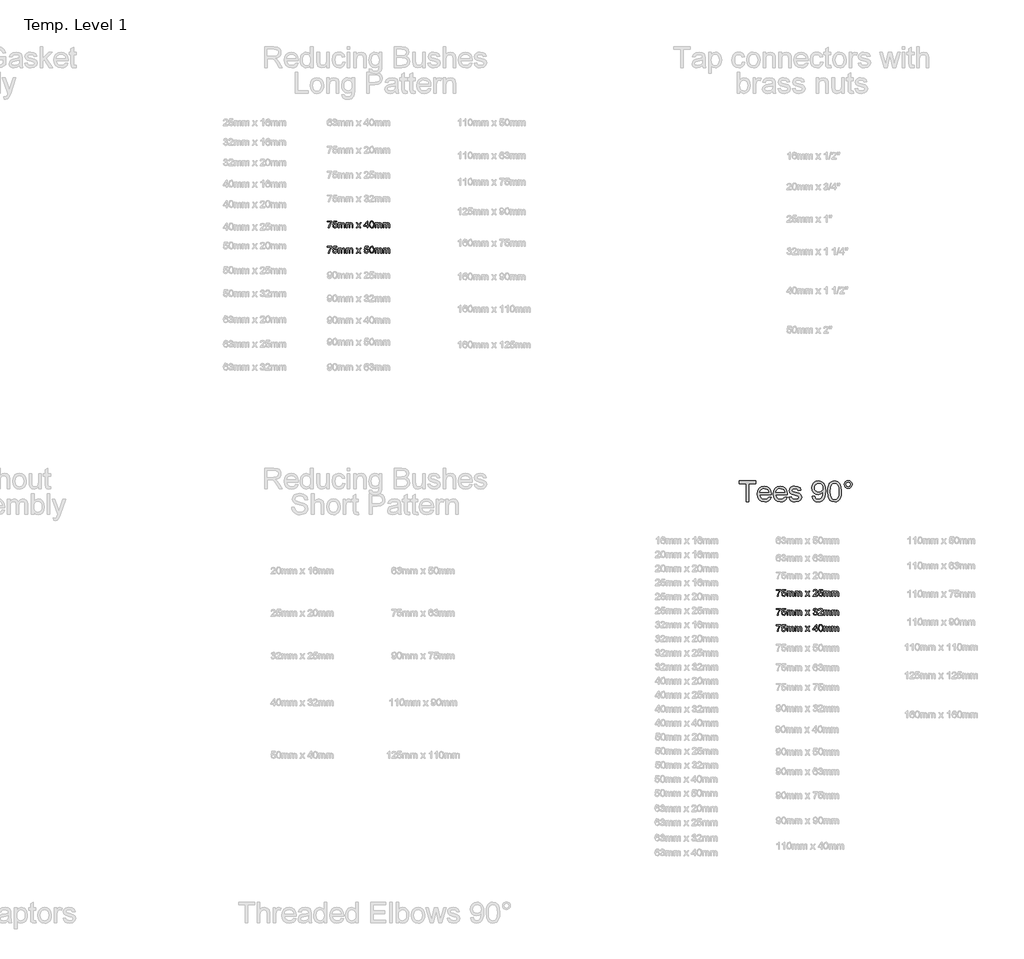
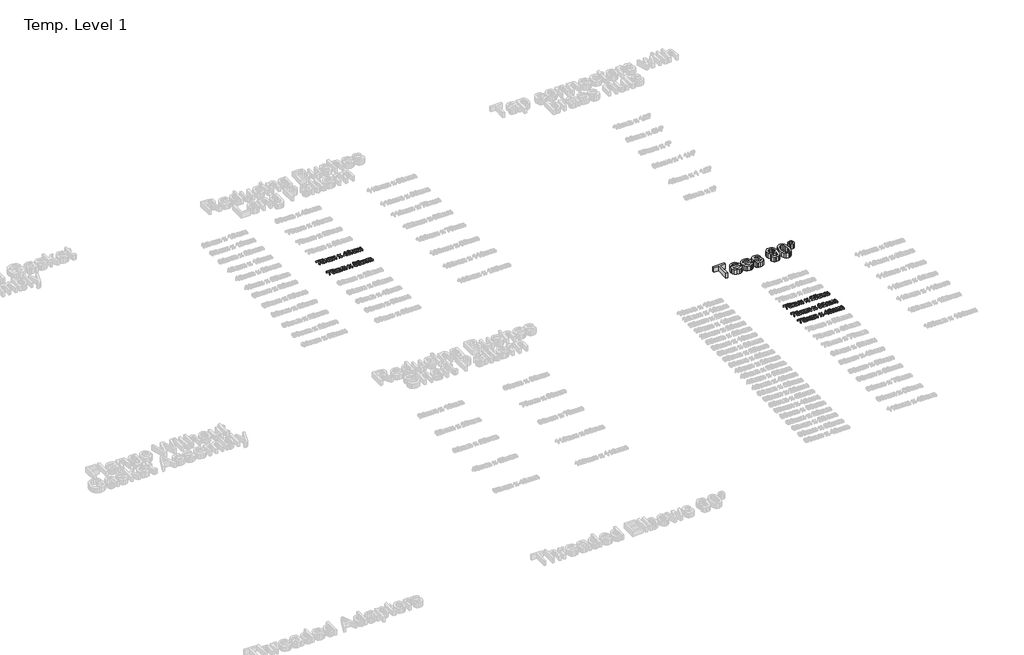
# One storey, part 44 of 62: 6 proxies.
"""IFC4 building model written with IfcOpenShell, lengths in millimetres."""

from ifc_helpers import new_model, si_unit, origin, origin_with_axes, place, context, project, spatial, polyline, outline, extrude, element, save

model = new_model("IFC4")

# Units and contexts
model_context = context("Model", 3, world=origin())
ifc_project = project(units=[si_unit("LENGTHUNIT", "METRE", prefix="MILLI")], contexts=[model_context])

# Site, building, storey
site = spatial("IfcSite", under=ifc_project)
building = spatial("IfcBuilding", under=site)
storey = spatial("IfcBuildingStorey", under=building, Name="Temp. Level 1", Elevation=0.0)

# Proxies
placement = place(None, origin())
element("IfcBuildingElementProxy", 1, Name="150mm Arial", ObjectType="150mm Arial", at=placement, inside=storey, context=model_context, shape_type="SweptSolid", body=[
    extrude(outline(polyline([(27061.5022519, -7070.198517), (27061.5022519, -6940.9677478), (27013.0407135, -6940.9677478), (27013.0407135, -6922.5062093), (27128.4253288, -6922.5062093), (27128.4253288, -6940.9677478), (27079.9637904, -6940.9677478), (27079.9637904, -7070.198517), (27061.5022519, -7070.198517)])), origin_with_axes(), (0.0, 0.0, 1.0), 50.0),
    extrude(outline(polyline([(27222.8243673, -7037.8908247), (27240.9253288, -7040.198517), (27234.4033938, -7053.8373391), (27223.9962423, -7064.0326516), (27209.9382495, -7070.3878199), (27192.4637904, -7072.5062093), (27170.8021317, -7068.8508608), (27154.1344635, -7057.8848151), (27143.5064587, -7040.3202117), (27139.9637904, -7016.8691901), (27143.5425163, -6992.6294064), (27154.2786942, -6974.5014016), (27170.7210019, -6963.1973151), (27191.4181173, -6959.4292862), (27211.4707014, -6963.1883007), (27227.4938385, -6974.4653439), (27238.0001486, -6992.5572911), (27241.5022519, -7016.761017), (27241.3940788, -7021.7369786), (27158.4253288, -7021.7369786), (27161.6209418, -7035.5560891), (27169.0443192, -7045.7153439), (27179.7579611, -7051.9623391), (27192.8243673, -7054.0446709), (27210.9253288, -7050.1864978), (27222.8243673, -7037.8908247)]), holes=[polyline([(27158.4253288, -7003.2754401), (27223.0407135, -7003.2754401), (27220.5437183, -6993.5218343), (27215.6488865, -6986.5446709), (27204.8856654, -6980.0542862), (27191.3460019, -6977.8908247), (27178.9015909, -6979.6170867), (27168.6116269, -6984.7958728), (27161.4586822, -6992.8682887), (27158.4253288, -7003.2754401)])]), origin_with_axes(), (0.0, 0.0, 1.0), 50.0),
    extrude(outline(polyline([(27335.9012904, -7037.8908247), (27354.0022519, -7040.198517), (27347.4803168, -7053.8373391), (27337.0731654, -7064.0326516), (27323.0151726, -7070.3878199), (27305.5407135, -7072.5062093), (27283.8790548, -7068.8508608), (27267.2113865, -7057.8848151), (27256.5833817, -7040.3202117), (27253.0407135, -7016.8691901), (27256.6194394, -6992.6294064), (27267.3556173, -6974.5014016), (27283.797925, -6963.1973151), (27304.4950404, -6959.4292862), (27324.5476245, -6963.1883007), (27340.5707615, -6974.4653439), (27351.0770716, -6992.5572911), (27354.579175, -7016.761017), (27354.4710019, -7021.7369786), (27271.5022519, -7021.7369786), (27274.6978649, -7035.5560891), (27282.1212423, -7045.7153439), (27292.8348841, -7051.9623391), (27305.9012904, -7054.0446709), (27324.0022519, -7050.1864978), (27335.9012904, -7037.8908247)]), holes=[polyline([(27271.5022519, -7003.2754401), (27336.1176365, -7003.2754401), (27333.6206413, -6993.5218343), (27328.7258096, -6986.5446709), (27317.9625885, -6980.0542862), (27304.422925, -6977.8908247), (27291.9785139, -6979.6170867), (27281.68855, -6984.7958728), (27274.5356053, -6992.8682887), (27271.5022519, -7003.2754401)])]), origin_with_axes(), (0.0, 0.0, 1.0), 50.0),
    extrude(outline(polyline([(27366.1176365, -7037.8908247), (27384.579175, -7035.5831324), (27387.4908337, -7043.479767), (27393.1248481, -7049.2850555), (27412.704175, -7054.0446709), (27431.5262904, -7049.6816901), (27437.6560981, -7039.4413055), (27431.4902327, -7031.1480362), (27412.4878288, -7025.8836132), (27384.6873481, -7016.8511612), (27372.5539346, -7006.3042862), (27368.4253288, -6991.4124593), (27371.7426365, -6977.6564497), (27380.7931173, -6967.1456324), (27392.5298962, -6961.682892), (27408.4133096, -6959.4292862), (27430.8772519, -6963.0530843), (27445.1560981, -6972.8607766), (27451.5022519, -6989.4292862), (27433.0407135, -6991.7369786), (27426.0996077, -6981.5506805), (27409.8556173, -6977.8908247), (27392.1873481, -6981.3884209), (27386.8868673, -6989.5374593), (27389.0863865, -6994.9100555), (27395.9734058, -6998.9845747), (27411.8748481, -7002.9148632), (27438.9722038, -7011.604767), (27451.5563385, -7021.448517), (27456.1176365, -7037.4941901), (27450.7630692, -7055.1624593), (27435.3123481, -7067.9809689), (27412.4517712, -7072.5062093), (27393.8369875, -7070.3247189), (27380.2522519, -7063.7802478), (27371.1837423, -7052.9449112), (27366.1176365, -7037.8908247)])), origin_with_axes(), (0.0, 0.0, 1.0), 50.0),
    extrude(outline(polyline([(27532.2714827, -7033.2754401), (27550.7330212, -7030.9677478), (27553.8880692, -7041.4470146), (27559.0262904, -7048.5819305), (27574.7474442, -7054.0446709), (27589.6933577, -7050.5290459), (27599.8255692, -7041.136017), (27605.8652327, -7025.0903439), (27608.5335019, -7003.6720747), (27608.4253288, -7000.0663055), (27593.6597038, -7014.0566901), (27573.4133096, -7019.4292862), (27556.5788745, -7016.1480362), (27542.5659538, -7006.3042862), (27533.1143313, -6991.0969545), (27529.9637904, -6971.7249593), (27533.2675764, -6951.7129401), (27543.1789346, -6936.0278439), (27558.0662543, -6925.886618), (27576.297925, -6922.5062093), (27590.0674563, -6924.4352959), (27602.6020115, -6930.2225555), (27613.0857856, -6939.5795266), (27620.7029731, -6952.2177478), (27625.3408938, -6969.6876997), (27626.8868673, -6993.5398632), (27625.345401, -7018.8298271), (27620.7210019, -7038.3776036), (27613.0542351, -7053.066606), (27602.3856654, -7063.7802478), (27589.1750284, -7070.3247189), (27573.8820596, -7072.5062093), (27558.0978048, -7069.9325915), (27545.5046558, -7062.2117382), (27536.6975644, -7049.8304281), (27532.2714827, -7033.2754401)]), holes=[polyline([(27608.4253288, -6971.292267), (27606.4331413, -6958.7802478), (27600.4565788, -6949.1528439), (27591.1807375, -6943.0140218), (27579.2907135, -6940.9677478), (27566.9589827, -6943.1717742), (27557.079175, -6949.7838536), (27550.5887904, -6959.9025435), (27548.4253288, -6972.6264016), (27550.4716029, -6984.034154), (27556.610425, -6993.089142), (27566.2468433, -6998.9980963), (27578.7859058, -7000.9677478), (27590.5812784, -6998.9980963), (27600.0779731, -6993.089142), (27606.3384899, -6983.7006204), (27608.4253288, -6971.292267)])]), origin_with_axes(), (0.0, 0.0, 1.0), 50.0),
    extrude(outline(polyline([(27643.0407135, -6997.542267), (27644.3973841, -6973.9019425), (27648.4673962, -6955.0482766), (27655.2101846, -6940.6928079), (27664.5851846, -6930.5470747), (27676.6600043, -6924.5164257), (27691.5022519, -6922.5062093), (27713.0647519, -6927.2658247), (27727.9565788, -6940.9857766), (27736.610425, -6962.8367382), (27739.9637904, -6997.542267), (27738.6206413, -7021.0473752), (27734.5911942, -7039.8559689), (27727.8889707, -7054.2249593), (27718.5274923, -7064.4112574), (27706.4256293, -7070.4824713), (27691.5022519, -7072.5062093), (27672.3195596, -7068.9905843), (27657.7522519, -7058.4437093), (27646.7185981, -7033.464743), (27643.0407135, -6997.542267)]), holes=[polyline([(27661.5022519, -6997.5062093), (27663.6657135, -7026.5461733), (27670.1560981, -7043.3535651), (27679.8195596, -7051.3718944), (27691.5022519, -7054.0446709), (27703.1849442, -7051.36288), (27712.8484058, -7043.3175074), (27719.3387904, -7026.5011012), (27721.5022519, -6997.5062093), (27719.4109058, -6969.1197911), (27713.1368673, -6952.1816901), (27703.4914346, -6943.7712334), (27691.2859058, -6940.9677478), (27679.7294154, -6943.4376997), (27670.4445596, -6950.8475555), (27663.7378288, -6968.8403439), (27661.5022519, -6997.5062093)])]), origin_with_axes(), (0.0, 0.0, 1.0), 50.0),
    extrude(outline(polyline([(27760.7330212, -6947.854767), (27762.7657736, -6937.2087334), (27768.8640308, -6928.2754401), (27777.8108457, -6922.2177478), (27788.3892712, -6920.198517), (27799.0893913, -6922.2177478), (27808.0407135, -6928.2754401), (27814.0984058, -6937.2087334), (27816.1176365, -6947.854767), (27814.0848841, -6958.487279), (27807.9866269, -6967.4521228), (27799.0217832, -6973.55038), (27788.3892712, -6975.5831324), (27777.8108457, -6973.5639016), (27768.8640308, -6967.5062093), (27762.7657736, -6958.5548872), (27760.7330212, -6947.854767)]), holes=[polyline([(27772.2714827, -6947.8908247), (27777.0130692, -6959.3211132), (27788.4613865, -6964.0446709), (27799.8375885, -6959.3211132), (27804.579175, -6947.8908247), (27799.8375885, -6936.4605362), (27788.4613865, -6931.7369786), (27777.0130692, -6936.4605362), (27772.2714827, -6947.8908247)])]), origin_with_axes(), (0.0, 0.0, 1.0), 50.0),
])
element("IfcBuildingElementProxy", 2, Name="50mm Arial", ObjectType="50mm Arial", at=placement, inside=storey, context=model_context, shape_type="SweptSolid", body=[
    extrude(outline(polyline([(24079.3793416, -5078.2165118), (24079.3793416, -5072.0626657), (24111.6870339, -5072.0626657), (24111.6870339, -5077.0386272), (24102.5223705, -5090.2778099), (24095.5091493, -5107.1468003), (24093.2254955, -5120.5242041), (24087.0716493, -5120.5242041), (24089.5175628, -5106.6419926), (24096.2303032, -5090.9508868), (24105.5331878, -5078.2165118), (24079.3793416, -5078.2165118)])), origin_with_axes(), (0.0, 0.0, 1.0), 15.0),
    extrude(outline(polyline([(24117.0716493, -5107.447281), (24123.2254955, -5106.6780503), (24126.326457, -5113.0181945), (24132.7567455, -5115.1395887), (24140.4730916, -5112.1888676), (24143.2254955, -5104.3583387), (24140.6473705, -5097.0506464), (24132.8528993, -5094.370358), (24127.4502551, -5095.4400695), (24123.9947262, -5098.2165118), (24117.8408801, -5097.447281), (24123.2254955, -5072.0626657), (24147.0716493, -5072.0626657), (24147.0716493, -5078.2165118), (24128.201457, -5078.2165118), (24125.5692455, -5091.7742041), (24134.5716493, -5088.2165118), (24145.0944859, -5092.6275695), (24149.3793416, -5103.9737233), (24145.5211685, -5115.3919926), (24139.9803032, -5119.8180743), (24132.732707, -5121.2934349), (24121.873332, -5117.5013676), (24117.0716493, -5107.447281)])), origin_with_axes(), (0.0, 0.0, 1.0), 15.0),
    extrude(outline(polyline([(24156.3024185, -5120.5242041), (24156.3024185, -5084.370358), (24162.4562647, -5084.370358), (24162.4562647, -5090.3198772), (24166.6870339, -5085.4460791), (24172.7086685, -5083.6011272), (24178.8745339, -5085.4821368), (24182.263957, -5090.7525695), (24187.0656397, -5085.3889878), (24193.1293416, -5083.6011272), (24201.1762166, -5086.5758868), (24203.9947262, -5095.7405503), (24203.9947262, -5120.5242041), (24197.8408801, -5120.5242041), (24197.8408801, -5098.384781), (24197.2699666, -5093.2465599), (24195.2026589, -5090.7165118), (24191.6870339, -5089.7549733), (24185.6353512, -5092.2189157), (24183.2254955, -5100.1155503), (24183.2254955, -5120.5242041), (24177.0716493, -5120.5242041), (24177.0716493, -5097.6996849), (24175.6473705, -5091.7381464), (24170.9778993, -5089.7549733), (24166.4226109, -5091.0770887), (24163.3937647, -5094.947281), (24162.4562647, -5102.291031), (24162.4562647, -5120.5242041), (24156.3024185, -5120.5242041)])), origin_with_axes(), (0.0, 0.0, 1.0), 15.0),
    extrude(outline(polyline([(24213.2254955, -5120.5242041), (24213.2254955, -5084.370358), (24219.3793416, -5084.370358), (24219.3793416, -5090.3198772), (24223.6101109, -5085.4460791), (24229.6317455, -5083.6011272), (24235.7976109, -5085.4821368), (24239.1870339, -5090.7525695), (24243.9887166, -5085.3889878), (24250.0524185, -5083.6011272), (24258.0992935, -5086.5758868), (24260.9178032, -5095.7405503), (24260.9178032, -5120.5242041), (24254.763957, -5120.5242041), (24254.763957, -5098.384781), (24254.1930435, -5093.2465599), (24252.1257359, -5090.7165118), (24248.6101109, -5089.7549733), (24242.5584282, -5092.2189157), (24240.1485724, -5100.1155503), (24240.1485724, -5120.5242041), (24233.9947262, -5120.5242041), (24233.9947262, -5097.6996849), (24232.5704474, -5091.7381464), (24227.9009762, -5089.7549733), (24223.3456878, -5091.0770887), (24220.3168416, -5094.947281), (24219.3793416, -5102.291031), (24219.3793416, -5120.5242041), (24213.2254955, -5120.5242041)])), origin_with_axes(), (0.0, 0.0, 1.0), 15.0),
    extrude(outline(polyline([(24285.5331878, -5120.5242041), (24298.6822262, -5102.3511272), (24286.3024185, -5084.370358), (24293.7062647, -5084.370358), (24299.6798224, -5093.0242041), (24302.4682839, -5097.1107426), (24304.8841493, -5093.7693964), (24311.6870339, -5084.370358), (24319.0908801, -5084.370358), (24306.0860724, -5102.3511272), (24318.6101109, -5120.5242041), (24311.2062647, -5120.5242041), (24303.670207, -5109.5987233), (24302.2879955, -5107.603531), (24292.9370339, -5120.5242041), (24285.5331878, -5120.5242041)])), origin_with_axes(), (0.0, 0.0, 1.0), 15.0),
    extrude(outline(polyline([(24361.6870339, -5120.5242041), (24361.6870339, -5108.9857426), (24339.3793416, -5108.9857426), (24339.3793416, -5102.8318964), (24363.2254955, -5072.0626657), (24367.8408801, -5072.0626657), (24367.8408801, -5102.8318964), (24373.9947262, -5102.8318964), (24373.9947262, -5108.9857426), (24367.8408801, -5108.9857426), (24367.8408801, -5120.5242041), (24361.6870339, -5120.5242041)]), holes=[polyline([(24361.6870339, -5102.8318964), (24361.6870339, -5083.8174733), (24346.951457, -5102.8318964), (24361.6870339, -5102.8318964)])]), origin_with_axes(), (0.0, 0.0, 1.0), 15.0),
    extrude(outline(polyline([(24379.3793416, -5096.3054541), (24381.1882359, -5082.1407907), (24386.560832, -5073.9737233), (24395.5331878, -5071.2934349), (24402.7206878, -5072.8799733), (24407.6846301, -5077.4532907), (24410.5692455, -5084.7369445), (24411.6870339, -5096.3054541), (24409.8961685, -5110.4100214), (24404.5416012, -5118.5951176), (24395.5331878, -5121.2934349), (24384.2831878, -5116.6059349), (24380.6053032, -5108.2796128), (24379.3793416, -5096.3054541)]), holes=[polyline([(24385.5331878, -5096.2934349), (24388.4178032, -5111.5758868), (24395.5331878, -5115.1395887), (24402.6485724, -5111.5638676), (24405.5331878, -5096.2934349), (24402.7447262, -5081.1852618), (24395.4610724, -5077.447281), (24388.513957, -5080.7405503), (24385.5331878, -5096.2934349)])]), origin_with_axes(), (0.0, 0.0, 1.0), 15.0),
    extrude(outline(polyline([(24418.6101109, -5120.5242041), (24418.6101109, -5084.370358), (24424.763957, -5084.370358), (24424.763957, -5090.3198772), (24428.9947262, -5085.4460791), (24435.0163609, -5083.6011272), (24441.1822262, -5085.4821368), (24444.5716493, -5090.7525695), (24449.373332, -5085.3889878), (24455.4370339, -5083.6011272), (24463.4839089, -5086.5758868), (24466.3024185, -5095.7405503), (24466.3024185, -5120.5242041), (24460.1485724, -5120.5242041), (24460.1485724, -5098.384781), (24459.5776589, -5093.2465599), (24457.5103512, -5090.7165118), (24453.9947262, -5089.7549733), (24447.9430435, -5092.2189157), (24445.5331878, -5100.1155503), (24445.5331878, -5120.5242041), (24439.3793416, -5120.5242041), (24439.3793416, -5097.6996849), (24437.9550628, -5091.7381464), (24433.2855916, -5089.7549733), (24428.7303032, -5091.0770887), (24425.701457, -5094.947281), (24424.763957, -5102.291031), (24424.763957, -5120.5242041), (24418.6101109, -5120.5242041)])), origin_with_axes(), (0.0, 0.0, 1.0), 15.0),
    extrude(outline(polyline([(24475.5331878, -5120.5242041), (24475.5331878, -5084.370358), (24481.6870339, -5084.370358), (24481.6870339, -5090.3198772), (24485.9178032, -5085.4460791), (24491.9394378, -5083.6011272), (24498.1053032, -5085.4821368), (24501.4947262, -5090.7525695), (24506.2964089, -5085.3889878), (24512.3601109, -5083.6011272), (24520.4069859, -5086.5758868), (24523.2254955, -5095.7405503), (24523.2254955, -5120.5242041), (24517.0716493, -5120.5242041), (24517.0716493, -5098.384781), (24516.5007359, -5093.2465599), (24514.4334282, -5090.7165118), (24510.9178032, -5089.7549733), (24504.8661205, -5092.2189157), (24502.4562647, -5100.1155503), (24502.4562647, -5120.5242041), (24496.3024185, -5120.5242041), (24496.3024185, -5097.6996849), (24494.8781397, -5091.7381464), (24490.2086685, -5089.7549733), (24485.6533801, -5091.0770887), (24482.6245339, -5094.947281), (24481.6870339, -5102.291031), (24481.6870339, -5120.5242041), (24475.5331878, -5120.5242041)])), origin_with_axes(), (0.0, 0.0, 1.0), 15.0),
])
element("IfcBuildingElementProxy", 3, Name="50mm Arial", ObjectType="50mm Arial", at=placement, inside=storey, context=model_context, shape_type="SweptSolid", body=[
    extrude(outline(polyline([(24079.3793416, -5258.2165118), (24079.3793416, -5252.0626657), (24111.6870339, -5252.0626657), (24111.6870339, -5257.0386272), (24102.5223705, -5270.2778099), (24095.5091493, -5287.1468003), (24093.2254955, -5300.5242041), (24087.0716493, -5300.5242041), (24089.5175628, -5286.6419926), (24096.2303032, -5270.9508868), (24105.5331878, -5258.2165118), (24079.3793416, -5258.2165118)])), origin_with_axes(), (0.0, 0.0, 1.0), 15.0),
    extrude(outline(polyline([(24117.0716493, -5287.447281), (24123.2254955, -5286.6780503), (24126.326457, -5293.0181945), (24132.7567455, -5295.1395887), (24140.4730916, -5292.1888676), (24143.2254955, -5284.3583387), (24140.6473705, -5277.0506464), (24132.8528993, -5274.370358), (24127.4502551, -5275.4400695), (24123.9947262, -5278.2165118), (24117.8408801, -5277.447281), (24123.2254955, -5252.0626657), (24147.0716493, -5252.0626657), (24147.0716493, -5258.2165118), (24128.201457, -5258.2165118), (24125.5692455, -5271.7742041), (24134.5716493, -5268.2165118), (24145.0944859, -5272.6275695), (24149.3793416, -5283.9737233), (24145.5211685, -5295.3919926), (24139.9803032, -5299.8180743), (24132.732707, -5301.2934349), (24121.873332, -5297.5013676), (24117.0716493, -5287.447281)])), origin_with_axes(), (0.0, 0.0, 1.0), 15.0),
    extrude(outline(polyline([(24156.3024185, -5300.5242041), (24156.3024185, -5264.370358), (24162.4562647, -5264.370358), (24162.4562647, -5270.3198772), (24166.6870339, -5265.4460791), (24172.7086685, -5263.6011272), (24178.8745339, -5265.4821368), (24182.263957, -5270.7525695), (24187.0656397, -5265.3889878), (24193.1293416, -5263.6011272), (24201.1762166, -5266.5758868), (24203.9947262, -5275.7405503), (24203.9947262, -5300.5242041), (24197.8408801, -5300.5242041), (24197.8408801, -5278.384781), (24197.2699666, -5273.2465599), (24195.2026589, -5270.7165118), (24191.6870339, -5269.7549733), (24185.6353512, -5272.2189157), (24183.2254955, -5280.1155503), (24183.2254955, -5300.5242041), (24177.0716493, -5300.5242041), (24177.0716493, -5277.6996849), (24175.6473705, -5271.7381464), (24170.9778993, -5269.7549733), (24166.4226109, -5271.0770887), (24163.3937647, -5274.947281), (24162.4562647, -5282.291031), (24162.4562647, -5300.5242041), (24156.3024185, -5300.5242041)])), origin_with_axes(), (0.0, 0.0, 1.0), 15.0),
    extrude(outline(polyline([(24213.2254955, -5300.5242041), (24213.2254955, -5264.370358), (24219.3793416, -5264.370358), (24219.3793416, -5270.3198772), (24223.6101109, -5265.4460791), (24229.6317455, -5263.6011272), (24235.7976109, -5265.4821368), (24239.1870339, -5270.7525695), (24243.9887166, -5265.3889878), (24250.0524185, -5263.6011272), (24258.0992935, -5266.5758868), (24260.9178032, -5275.7405503), (24260.9178032, -5300.5242041), (24254.763957, -5300.5242041), (24254.763957, -5278.384781), (24254.1930435, -5273.2465599), (24252.1257359, -5270.7165118), (24248.6101109, -5269.7549733), (24242.5584282, -5272.2189157), (24240.1485724, -5280.1155503), (24240.1485724, -5300.5242041), (24233.9947262, -5300.5242041), (24233.9947262, -5277.6996849), (24232.5704474, -5271.7381464), (24227.9009762, -5269.7549733), (24223.3456878, -5271.0770887), (24220.3168416, -5274.947281), (24219.3793416, -5282.291031), (24219.3793416, -5300.5242041), (24213.2254955, -5300.5242041)])), origin_with_axes(), (0.0, 0.0, 1.0), 15.0),
    extrude(outline(polyline([(24285.5331878, -5300.5242041), (24298.6822262, -5282.3511272), (24286.3024185, -5264.370358), (24293.7062647, -5264.370358), (24299.6798224, -5273.0242041), (24302.4682839, -5277.1107426), (24304.8841493, -5273.7693964), (24311.6870339, -5264.370358), (24319.0908801, -5264.370358), (24306.0860724, -5282.3511272), (24318.6101109, -5300.5242041), (24311.2062647, -5300.5242041), (24303.670207, -5289.5987233), (24302.2879955, -5287.603531), (24292.9370339, -5300.5242041), (24285.5331878, -5300.5242041)])), origin_with_axes(), (0.0, 0.0, 1.0), 15.0),
    extrude(outline(polyline([(24341.6870339, -5287.447281), (24347.8408801, -5286.6780503), (24350.9418416, -5293.0181945), (24357.3721301, -5295.1395887), (24365.0884762, -5292.1888676), (24367.8408801, -5284.3583387), (24365.2627551, -5277.0506464), (24357.4682839, -5274.370358), (24352.0656397, -5275.4400695), (24348.6101109, -5278.2165118), (24342.4562647, -5277.447281), (24347.8408801, -5252.0626657), (24371.6870339, -5252.0626657), (24371.6870339, -5258.2165118), (24352.8168416, -5258.2165118), (24350.1846301, -5271.7742041), (24359.1870339, -5268.2165118), (24369.7098705, -5272.6275695), (24373.9947262, -5283.9737233), (24370.1365532, -5295.3919926), (24364.5956878, -5299.8180743), (24357.3480916, -5301.2934349), (24346.4887166, -5297.5013676), (24341.6870339, -5287.447281)])), origin_with_axes(), (0.0, 0.0, 1.0), 15.0),
    extrude(outline(polyline([(24379.3793416, -5276.3054541), (24381.1882359, -5262.1407907), (24386.560832, -5253.9737233), (24395.5331878, -5251.2934349), (24402.7206878, -5252.8799733), (24407.6846301, -5257.4532907), (24410.5692455, -5264.7369445), (24411.6870339, -5276.3054541), (24409.8961685, -5290.4100214), (24404.5416012, -5298.5951176), (24395.5331878, -5301.2934349), (24384.2831878, -5296.6059349), (24380.6053032, -5288.2796128), (24379.3793416, -5276.3054541)]), holes=[polyline([(24385.5331878, -5276.2934349), (24388.4178032, -5291.5758868), (24395.5331878, -5295.1395887), (24402.6485724, -5291.5638676), (24405.5331878, -5276.2934349), (24402.7447262, -5261.1852618), (24395.4610724, -5257.447281), (24388.513957, -5260.7405503), (24385.5331878, -5276.2934349)])]), origin_with_axes(), (0.0, 0.0, 1.0), 15.0),
    extrude(outline(polyline([(24418.6101109, -5300.5242041), (24418.6101109, -5264.370358), (24424.763957, -5264.370358), (24424.763957, -5270.3198772), (24428.9947262, -5265.4460791), (24435.0163609, -5263.6011272), (24441.1822262, -5265.4821368), (24444.5716493, -5270.7525695), (24449.373332, -5265.3889878), (24455.4370339, -5263.6011272), (24463.4839089, -5266.5758868), (24466.3024185, -5275.7405503), (24466.3024185, -5300.5242041), (24460.1485724, -5300.5242041), (24460.1485724, -5278.384781), (24459.5776589, -5273.2465599), (24457.5103512, -5270.7165118), (24453.9947262, -5269.7549733), (24447.9430435, -5272.2189157), (24445.5331878, -5280.1155503), (24445.5331878, -5300.5242041), (24439.3793416, -5300.5242041), (24439.3793416, -5277.6996849), (24437.9550628, -5271.7381464), (24433.2855916, -5269.7549733), (24428.7303032, -5271.0770887), (24425.701457, -5274.947281), (24424.763957, -5282.291031), (24424.763957, -5300.5242041), (24418.6101109, -5300.5242041)])), origin_with_axes(), (0.0, 0.0, 1.0), 15.0),
    extrude(outline(polyline([(24475.5331878, -5300.5242041), (24475.5331878, -5264.370358), (24481.6870339, -5264.370358), (24481.6870339, -5270.3198772), (24485.9178032, -5265.4460791), (24491.9394378, -5263.6011272), (24498.1053032, -5265.4821368), (24501.4947262, -5270.7525695), (24506.2964089, -5265.3889878), (24512.3601109, -5263.6011272), (24520.4069859, -5266.5758868), (24523.2254955, -5275.7405503), (24523.2254955, -5300.5242041), (24517.0716493, -5300.5242041), (24517.0716493, -5278.384781), (24516.5007359, -5273.2465599), (24514.4334282, -5270.7165118), (24510.9178032, -5269.7549733), (24504.8661205, -5272.2189157), (24502.4562647, -5280.1155503), (24502.4562647, -5300.5242041), (24496.3024185, -5300.5242041), (24496.3024185, -5277.6996849), (24494.8781397, -5271.7381464), (24490.2086685, -5269.7549733), (24485.6533801, -5271.0770887), (24482.6245339, -5274.947281), (24481.6870339, -5282.291031), (24481.6870339, -5300.5242041), (24475.5331878, -5300.5242041)])), origin_with_axes(), (0.0, 0.0, 1.0), 15.0),
])
element("IfcBuildingElementProxy", 4, Name="50mm Arial", ObjectType="50mm Arial", at=placement, inside=storey, context=model_context, shape_type="SweptSolid", body=[
    extrude(outline(polyline([(27275.7186344, -7702.2488061), (27275.7186344, -7696.09496), (27308.0263267, -7696.09496), (27308.0263267, -7701.0709215), (27298.8616633, -7714.3101042), (27291.8484421, -7731.1790946), (27289.5647883, -7744.5564984), (27283.4109421, -7744.5564984), (27285.8568556, -7730.6742869), (27292.569596, -7714.9831811), (27301.8724806, -7702.2488061), (27275.7186344, -7702.2488061)])), origin_with_axes(), (0.0, 0.0, 1.0), 15.0),
    extrude(outline(polyline([(27313.4109421, -7731.4795754), (27319.5647883, -7730.7103446), (27322.6657498, -7737.0504888), (27329.0960383, -7739.1718831), (27336.8123844, -7736.2211619), (27339.5647883, -7728.3906331), (27336.9866633, -7721.0829408), (27329.1921921, -7718.4026523), (27323.7895479, -7719.4723638), (27320.334019, -7722.2488061), (27314.1801729, -7721.4795754), (27319.5647883, -7696.09496), (27343.4109421, -7696.09496), (27343.4109421, -7702.2488061), (27324.5407498, -7702.2488061), (27321.9085383, -7715.8064984), (27330.9109421, -7712.2488061), (27341.4337786, -7716.6598638), (27345.7186344, -7728.0060177), (27341.8604613, -7739.4242869), (27336.319596, -7743.8503686), (27329.0719998, -7745.3257292), (27318.2126248, -7741.5336619), (27313.4109421, -7731.4795754)])), origin_with_axes(), (0.0, 0.0, 1.0), 15.0),
    extrude(outline(polyline([(27352.6417113, -7744.5564984), (27352.6417113, -7708.4026523), (27358.7955575, -7708.4026523), (27358.7955575, -7714.3521715), (27363.0263267, -7709.4783734), (27369.0479613, -7707.6334215), (27375.2138267, -7709.5144311), (27378.6032498, -7714.7848638), (27383.4049325, -7709.4212821), (27389.4686344, -7707.6334215), (27397.5155094, -7710.6081811), (27400.334019, -7719.7728446), (27400.334019, -7744.5564984), (27394.1801729, -7744.5564984), (27394.1801729, -7722.4170754), (27393.6092594, -7717.2788542), (27391.5419517, -7714.7488061), (27388.0263267, -7713.7872677), (27381.974644, -7716.25121), (27379.5647883, -7724.1478446), (27379.5647883, -7744.5564984), (27373.4109421, -7744.5564984), (27373.4109421, -7721.7319792), (27371.9866633, -7715.7704408), (27367.3171921, -7713.7872677), (27362.7619036, -7715.1093831), (27359.7330575, -7718.9795754), (27358.7955575, -7726.3233254), (27358.7955575, -7744.5564984), (27352.6417113, -7744.5564984)])), origin_with_axes(), (0.0, 0.0, 1.0), 15.0),
    extrude(outline(polyline([(27409.5647883, -7744.5564984), (27409.5647883, -7708.4026523), (27415.7186344, -7708.4026523), (27415.7186344, -7714.3521715), (27419.9494036, -7709.4783734), (27425.9710383, -7707.6334215), (27432.1369036, -7709.5144311), (27435.5263267, -7714.7848638), (27440.3280094, -7709.4212821), (27446.3917113, -7707.6334215), (27454.4385863, -7710.6081811), (27457.257096, -7719.7728446), (27457.257096, -7744.5564984), (27451.1032498, -7744.5564984), (27451.1032498, -7722.4170754), (27450.5323363, -7717.2788542), (27448.4650286, -7714.7488061), (27444.9494036, -7713.7872677), (27438.897721, -7716.25121), (27436.4878652, -7724.1478446), (27436.4878652, -7744.5564984), (27430.334019, -7744.5564984), (27430.334019, -7721.7319792), (27428.9097402, -7715.7704408), (27424.240269, -7713.7872677), (27419.6849806, -7715.1093831), (27416.6561344, -7718.9795754), (27415.7186344, -7726.3233254), (27415.7186344, -7744.5564984), (27409.5647883, -7744.5564984)])), origin_with_axes(), (0.0, 0.0, 1.0), 15.0),
    extrude(outline(polyline([(27481.8724806, -7744.5564984), (27495.021519, -7726.3834215), (27482.6417113, -7708.4026523), (27490.0455575, -7708.4026523), (27496.0191152, -7717.0564984), (27498.8075767, -7721.1430369), (27501.2234421, -7717.8016908), (27508.0263267, -7708.4026523), (27515.4301729, -7708.4026523), (27502.4253652, -7726.3834215), (27514.9494036, -7744.5564984), (27507.5455575, -7744.5564984), (27500.0094998, -7733.6310177), (27498.6272883, -7731.6358254), (27489.2763267, -7744.5564984), (27481.8724806, -7744.5564984)])), origin_with_axes(), (0.0, 0.0, 1.0), 15.0),
    extrude(outline(polyline([(27569.5647883, -7738.4026523), (27569.5647883, -7744.5564984), (27537.257096, -7744.5564984), (27537.9181536, -7740.31371), (27541.6561344, -7733.7812581), (27549.3604613, -7726.6478446), (27559.9854613, -7716.3954408), (27562.6417113, -7709.4242869), (27560.1357017, -7703.7812581), (27553.5912306, -7701.4795754), (27546.7703171, -7703.7271715), (27544.1801729, -7709.9411138), (27538.0263267, -7709.1718831), (27542.7438748, -7698.8714023), (27553.7234421, -7695.3257292), (27564.7390671, -7699.2680369), (27568.7955575, -7709.0516908), (27567.7018075, -7714.8870273), (27564.0659902, -7720.9206811), (27555.2498844, -7729.3521715), (27548.1705575, -7735.2716427), (27545.3941152, -7738.4026523), (27569.5647883, -7738.4026523)])), origin_with_axes(), (0.0, 0.0, 1.0), 15.0),
    extrude(outline(polyline([(27575.7186344, -7731.4795754), (27581.8724806, -7730.7103446), (27584.9734421, -7737.0504888), (27591.4037306, -7739.1718831), (27599.1200767, -7736.2211619), (27601.8724806, -7728.3906331), (27599.2943556, -7721.0829408), (27591.4998844, -7718.4026523), (27586.0972402, -7719.4723638), (27582.6417113, -7722.2488061), (27576.4878652, -7721.4795754), (27581.8724806, -7696.09496), (27605.7186344, -7696.09496), (27605.7186344, -7702.2488061), (27586.8484421, -7702.2488061), (27584.2162306, -7715.8064984), (27593.2186344, -7712.2488061), (27603.741471, -7716.6598638), (27608.0263267, -7728.0060177), (27604.1681536, -7739.4242869), (27598.6272883, -7743.8503686), (27591.3796921, -7745.3257292), (27580.5203171, -7741.5336619), (27575.7186344, -7731.4795754)])), origin_with_axes(), (0.0, 0.0, 1.0), 15.0),
    extrude(outline(polyline([(27614.9494036, -7744.5564984), (27614.9494036, -7708.4026523), (27621.1032498, -7708.4026523), (27621.1032498, -7714.3521715), (27625.334019, -7709.4783734), (27631.3556536, -7707.6334215), (27637.521519, -7709.5144311), (27640.9109421, -7714.7848638), (27645.7126248, -7709.4212821), (27651.7763267, -7707.6334215), (27659.8232017, -7710.6081811), (27662.6417113, -7719.7728446), (27662.6417113, -7744.5564984), (27656.4878652, -7744.5564984), (27656.4878652, -7722.4170754), (27655.9169517, -7717.2788542), (27653.849644, -7714.7488061), (27650.334019, -7713.7872677), (27644.2823363, -7716.25121), (27641.8724806, -7724.1478446), (27641.8724806, -7744.5564984), (27635.7186344, -7744.5564984), (27635.7186344, -7721.7319792), (27634.2943556, -7715.7704408), (27629.6248844, -7713.7872677), (27625.069596, -7715.1093831), (27622.0407498, -7718.9795754), (27621.1032498, -7726.3233254), (27621.1032498, -7744.5564984), (27614.9494036, -7744.5564984)])), origin_with_axes(), (0.0, 0.0, 1.0), 15.0),
    extrude(outline(polyline([(27671.8724806, -7744.5564984), (27671.8724806, -7708.4026523), (27678.0263267, -7708.4026523), (27678.0263267, -7714.3521715), (27682.257096, -7709.4783734), (27688.2787306, -7707.6334215), (27694.444596, -7709.5144311), (27697.834019, -7714.7848638), (27702.6357017, -7709.4212821), (27708.6994036, -7707.6334215), (27716.7462786, -7710.6081811), (27719.5647883, -7719.7728446), (27719.5647883, -7744.5564984), (27713.4109421, -7744.5564984), (27713.4109421, -7722.4170754), (27712.8400286, -7717.2788542), (27710.772721, -7714.7488061), (27707.257096, -7713.7872677), (27701.2054133, -7716.25121), (27698.7955575, -7724.1478446), (27698.7955575, -7744.5564984), (27692.6417113, -7744.5564984), (27692.6417113, -7721.7319792), (27691.2174325, -7715.7704408), (27686.5479613, -7713.7872677), (27681.9926729, -7715.1093831), (27678.9638267, -7718.9795754), (27678.0263267, -7726.3233254), (27678.0263267, -7744.5564984), (27671.8724806, -7744.5564984)])), origin_with_axes(), (0.0, 0.0, 1.0), 15.0),
])
element("IfcBuildingElementProxy", 5, Name="50mm Arial", ObjectType="50mm Arial", at=placement, inside=storey, context=model_context, shape_type="SweptSolid", body=[
    extrude(outline(polyline([(27275.7186344, -7837.2488061), (27275.7186344, -7831.09496), (27308.0263267, -7831.09496), (27308.0263267, -7836.0709215), (27298.8616633, -7849.3101042), (27291.8484421, -7866.1790946), (27289.5647883, -7879.5564984), (27283.4109421, -7879.5564984), (27285.8568556, -7865.6742869), (27292.569596, -7849.9831811), (27301.8724806, -7837.2488061), (27275.7186344, -7837.2488061)])), origin_with_axes(), (0.0, 0.0, 1.0), 15.0),
    extrude(outline(polyline([(27313.4109421, -7866.4795754), (27319.5647883, -7865.7103446), (27322.6657498, -7872.0504888), (27329.0960383, -7874.1718831), (27336.8123844, -7871.2211619), (27339.5647883, -7863.3906331), (27336.9866633, -7856.0829408), (27329.1921921, -7853.4026523), (27323.7895479, -7854.4723638), (27320.334019, -7857.2488061), (27314.1801729, -7856.4795754), (27319.5647883, -7831.09496), (27343.4109421, -7831.09496), (27343.4109421, -7837.2488061), (27324.5407498, -7837.2488061), (27321.9085383, -7850.8064984), (27330.9109421, -7847.2488061), (27341.4337786, -7851.6598638), (27345.7186344, -7863.0060177), (27341.8604613, -7874.4242869), (27336.319596, -7878.8503686), (27329.0719998, -7880.3257292), (27318.2126248, -7876.5336619), (27313.4109421, -7866.4795754)])), origin_with_axes(), (0.0, 0.0, 1.0), 15.0),
    extrude(outline(polyline([(27352.6417113, -7879.5564984), (27352.6417113, -7843.4026523), (27358.7955575, -7843.4026523), (27358.7955575, -7849.3521715), (27363.0263267, -7844.4783734), (27369.0479613, -7842.6334215), (27375.2138267, -7844.5144311), (27378.6032498, -7849.7848638), (27383.4049325, -7844.4212821), (27389.4686344, -7842.6334215), (27397.5155094, -7845.6081811), (27400.334019, -7854.7728446), (27400.334019, -7879.5564984), (27394.1801729, -7879.5564984), (27394.1801729, -7857.4170754), (27393.6092594, -7852.2788542), (27391.5419517, -7849.7488061), (27388.0263267, -7848.7872677), (27381.974644, -7851.25121), (27379.5647883, -7859.1478446), (27379.5647883, -7879.5564984), (27373.4109421, -7879.5564984), (27373.4109421, -7856.7319792), (27371.9866633, -7850.7704408), (27367.3171921, -7848.7872677), (27362.7619036, -7850.1093831), (27359.7330575, -7853.9795754), (27358.7955575, -7861.3233254), (27358.7955575, -7879.5564984), (27352.6417113, -7879.5564984)])), origin_with_axes(), (0.0, 0.0, 1.0), 15.0),
    extrude(outline(polyline([(27409.5647883, -7879.5564984), (27409.5647883, -7843.4026523), (27415.7186344, -7843.4026523), (27415.7186344, -7849.3521715), (27419.9494036, -7844.4783734), (27425.9710383, -7842.6334215), (27432.1369036, -7844.5144311), (27435.5263267, -7849.7848638), (27440.3280094, -7844.4212821), (27446.3917113, -7842.6334215), (27454.4385863, -7845.6081811), (27457.257096, -7854.7728446), (27457.257096, -7879.5564984), (27451.1032498, -7879.5564984), (27451.1032498, -7857.4170754), (27450.5323363, -7852.2788542), (27448.4650286, -7849.7488061), (27444.9494036, -7848.7872677), (27438.897721, -7851.25121), (27436.4878652, -7859.1478446), (27436.4878652, -7879.5564984), (27430.334019, -7879.5564984), (27430.334019, -7856.7319792), (27428.9097402, -7850.7704408), (27424.240269, -7848.7872677), (27419.6849806, -7850.1093831), (27416.6561344, -7853.9795754), (27415.7186344, -7861.3233254), (27415.7186344, -7879.5564984), (27409.5647883, -7879.5564984)])), origin_with_axes(), (0.0, 0.0, 1.0), 15.0),
    extrude(outline(polyline([(27481.8724806, -7879.5564984), (27495.021519, -7861.3834215), (27482.6417113, -7843.4026523), (27490.0455575, -7843.4026523), (27496.0191152, -7852.0564984), (27498.8075767, -7856.1430369), (27501.2234421, -7852.8016908), (27508.0263267, -7843.4026523), (27515.4301729, -7843.4026523), (27502.4253652, -7861.3834215), (27514.9494036, -7879.5564984), (27507.5455575, -7879.5564984), (27500.0094998, -7868.6310177), (27498.6272883, -7866.6358254), (27489.2763267, -7879.5564984), (27481.8724806, -7879.5564984)])), origin_with_axes(), (0.0, 0.0, 1.0), 15.0),
    extrude(outline(polyline([(27538.0263267, -7866.4795754), (27544.1801729, -7865.7103446), (27547.5756056, -7872.18871), (27553.927769, -7874.1718831), (27561.4037306, -7871.4435177), (27564.1801729, -7864.68871), (27561.427769, -7858.3245273), (27554.4325767, -7855.8064984), (27550.1176729, -7856.4795754), (27550.802769, -7850.3257292), (27558.771519, -7848.6310177), (27561.8724806, -7843.1983254), (27559.6248844, -7838.3846234), (27553.8316152, -7836.4795754), (27547.9662306, -7838.4026523), (27544.9494036, -7844.1718831), (27538.7955575, -7843.4026523), (27543.8316152, -7833.75121), (27553.615269, -7830.3257292), (27561.037144, -7832.0144311), (27566.2294517, -7836.6298158), (27568.0263267, -7842.8377484), (27566.319596, -7848.5108254), (27561.271519, -7852.5853446), (27567.9782498, -7856.7920754), (27570.334019, -7864.7968831), (27565.6224806, -7875.8064984), (27553.7114229, -7880.3257292), (27542.9181536, -7876.4675561), (27538.0263267, -7866.4795754)])), origin_with_axes(), (0.0, 0.0, 1.0), 15.0),
    extrude(outline(polyline([(27607.257096, -7873.4026523), (27607.257096, -7879.5564984), (27574.9494036, -7879.5564984), (27575.6104613, -7875.31371), (27579.3484421, -7868.7812581), (27587.052769, -7861.6478446), (27597.677769, -7851.3954408), (27600.334019, -7844.4242869), (27597.8280094, -7838.7812581), (27591.2835383, -7836.4795754), (27584.4626248, -7838.7271715), (27581.8724806, -7844.9411138), (27575.7186344, -7844.1718831), (27580.4361825, -7833.8714023), (27591.4157498, -7830.3257292), (27602.4313748, -7834.2680369), (27606.4878652, -7844.0516908), (27605.3941152, -7849.8870273), (27601.7582979, -7855.9206811), (27592.9421921, -7864.3521715), (27585.8628652, -7870.2716427), (27583.0864229, -7873.4026523), (27607.257096, -7873.4026523)])), origin_with_axes(), (0.0, 0.0, 1.0), 15.0),
    extrude(outline(polyline([(27614.9494036, -7879.5564984), (27614.9494036, -7843.4026523), (27621.1032498, -7843.4026523), (27621.1032498, -7849.3521715), (27625.334019, -7844.4783734), (27631.3556536, -7842.6334215), (27637.521519, -7844.5144311), (27640.9109421, -7849.7848638), (27645.7126248, -7844.4212821), (27651.7763267, -7842.6334215), (27659.8232017, -7845.6081811), (27662.6417113, -7854.7728446), (27662.6417113, -7879.5564984), (27656.4878652, -7879.5564984), (27656.4878652, -7857.4170754), (27655.9169517, -7852.2788542), (27653.849644, -7849.7488061), (27650.334019, -7848.7872677), (27644.2823363, -7851.25121), (27641.8724806, -7859.1478446), (27641.8724806, -7879.5564984), (27635.7186344, -7879.5564984), (27635.7186344, -7856.7319792), (27634.2943556, -7850.7704408), (27629.6248844, -7848.7872677), (27625.069596, -7850.1093831), (27622.0407498, -7853.9795754), (27621.1032498, -7861.3233254), (27621.1032498, -7879.5564984), (27614.9494036, -7879.5564984)])), origin_with_axes(), (0.0, 0.0, 1.0), 15.0),
    extrude(outline(polyline([(27671.8724806, -7879.5564984), (27671.8724806, -7843.4026523), (27678.0263267, -7843.4026523), (27678.0263267, -7849.3521715), (27682.257096, -7844.4783734), (27688.2787306, -7842.6334215), (27694.444596, -7844.5144311), (27697.834019, -7849.7848638), (27702.6357017, -7844.4212821), (27708.6994036, -7842.6334215), (27716.7462786, -7845.6081811), (27719.5647883, -7854.7728446), (27719.5647883, -7879.5564984), (27713.4109421, -7879.5564984), (27713.4109421, -7857.4170754), (27712.8400286, -7852.2788542), (27710.772721, -7849.7488061), (27707.257096, -7848.7872677), (27701.2054133, -7851.25121), (27698.7955575, -7859.1478446), (27698.7955575, -7879.5564984), (27692.6417113, -7879.5564984), (27692.6417113, -7856.7319792), (27691.2174325, -7850.7704408), (27686.5479613, -7848.7872677), (27681.9926729, -7850.1093831), (27678.9638267, -7853.9795754), (27678.0263267, -7861.3233254), (27678.0263267, -7879.5564984), (27671.8724806, -7879.5564984)])), origin_with_axes(), (0.0, 0.0, 1.0), 15.0),
])
element("IfcBuildingElementProxy", 6, Name="50mm Arial", ObjectType="50mm Arial", at=placement, inside=storey, context=model_context, shape_type="SweptSolid", body=[
    extrude(outline(polyline([(27275.7186344, -7952.2488061), (27275.7186344, -7946.09496), (27308.0263267, -7946.09496), (27308.0263267, -7951.0709215), (27298.8616633, -7964.3101042), (27291.8484421, -7981.1790946), (27289.5647883, -7994.5564984), (27283.4109421, -7994.5564984), (27285.8568556, -7980.6742869), (27292.569596, -7964.9831811), (27301.8724806, -7952.2488061), (27275.7186344, -7952.2488061)])), origin_with_axes(), (0.0, 0.0, 1.0), 15.0),
    extrude(outline(polyline([(27313.4109421, -7981.4795754), (27319.5647883, -7980.7103446), (27322.6657498, -7987.0504888), (27329.0960383, -7989.1718831), (27336.8123844, -7986.2211619), (27339.5647883, -7978.3906331), (27336.9866633, -7971.0829408), (27329.1921921, -7968.4026523), (27323.7895479, -7969.4723638), (27320.334019, -7972.2488061), (27314.1801729, -7971.4795754), (27319.5647883, -7946.09496), (27343.4109421, -7946.09496), (27343.4109421, -7952.2488061), (27324.5407498, -7952.2488061), (27321.9085383, -7965.8064984), (27330.9109421, -7962.2488061), (27341.4337786, -7966.6598638), (27345.7186344, -7978.0060177), (27341.8604613, -7989.4242869), (27336.319596, -7993.8503686), (27329.0719998, -7995.3257292), (27318.2126248, -7991.5336619), (27313.4109421, -7981.4795754)])), origin_with_axes(), (0.0, 0.0, 1.0), 15.0),
    extrude(outline(polyline([(27352.6417113, -7994.5564984), (27352.6417113, -7958.4026523), (27358.7955575, -7958.4026523), (27358.7955575, -7964.3521715), (27363.0263267, -7959.4783734), (27369.0479613, -7957.6334215), (27375.2138267, -7959.5144311), (27378.6032498, -7964.7848638), (27383.4049325, -7959.4212821), (27389.4686344, -7957.6334215), (27397.5155094, -7960.6081811), (27400.334019, -7969.7728446), (27400.334019, -7994.5564984), (27394.1801729, -7994.5564984), (27394.1801729, -7972.4170754), (27393.6092594, -7967.2788542), (27391.5419517, -7964.7488061), (27388.0263267, -7963.7872677), (27381.974644, -7966.25121), (27379.5647883, -7974.1478446), (27379.5647883, -7994.5564984), (27373.4109421, -7994.5564984), (27373.4109421, -7971.7319792), (27371.9866633, -7965.7704408), (27367.3171921, -7963.7872677), (27362.7619036, -7965.1093831), (27359.7330575, -7968.9795754), (27358.7955575, -7976.3233254), (27358.7955575, -7994.5564984), (27352.6417113, -7994.5564984)])), origin_with_axes(), (0.0, 0.0, 1.0), 15.0),
    extrude(outline(polyline([(27409.5647883, -7994.5564984), (27409.5647883, -7958.4026523), (27415.7186344, -7958.4026523), (27415.7186344, -7964.3521715), (27419.9494036, -7959.4783734), (27425.9710383, -7957.6334215), (27432.1369036, -7959.5144311), (27435.5263267, -7964.7848638), (27440.3280094, -7959.4212821), (27446.3917113, -7957.6334215), (27454.4385863, -7960.6081811), (27457.257096, -7969.7728446), (27457.257096, -7994.5564984), (27451.1032498, -7994.5564984), (27451.1032498, -7972.4170754), (27450.5323363, -7967.2788542), (27448.4650286, -7964.7488061), (27444.9494036, -7963.7872677), (27438.897721, -7966.25121), (27436.4878652, -7974.1478446), (27436.4878652, -7994.5564984), (27430.334019, -7994.5564984), (27430.334019, -7971.7319792), (27428.9097402, -7965.7704408), (27424.240269, -7963.7872677), (27419.6849806, -7965.1093831), (27416.6561344, -7968.9795754), (27415.7186344, -7976.3233254), (27415.7186344, -7994.5564984), (27409.5647883, -7994.5564984)])), origin_with_axes(), (0.0, 0.0, 1.0), 15.0),
    extrude(outline(polyline([(27481.8724806, -7994.5564984), (27495.021519, -7976.3834215), (27482.6417113, -7958.4026523), (27490.0455575, -7958.4026523), (27496.0191152, -7967.0564984), (27498.8075767, -7971.1430369), (27501.2234421, -7967.8016908), (27508.0263267, -7958.4026523), (27515.4301729, -7958.4026523), (27502.4253652, -7976.3834215), (27514.9494036, -7994.5564984), (27507.5455575, -7994.5564984), (27500.0094998, -7983.6310177), (27498.6272883, -7981.6358254), (27489.2763267, -7994.5564984), (27481.8724806, -7994.5564984)])), origin_with_axes(), (0.0, 0.0, 1.0), 15.0),
    extrude(outline(polyline([(27558.0263267, -7994.5564984), (27558.0263267, -7983.0180369), (27535.7186344, -7983.0180369), (27535.7186344, -7976.8641908), (27559.5647883, -7946.09496), (27564.1801729, -7946.09496), (27564.1801729, -7976.8641908), (27570.334019, -7976.8641908), (27570.334019, -7983.0180369), (27564.1801729, -7983.0180369), (27564.1801729, -7994.5564984), (27558.0263267, -7994.5564984)]), holes=[polyline([(27558.0263267, -7976.8641908), (27558.0263267, -7957.8497677), (27543.2907498, -7976.8641908), (27558.0263267, -7976.8641908)])]), origin_with_axes(), (0.0, 0.0, 1.0), 15.0),
    extrude(outline(polyline([(27575.7186344, -7970.3377484), (27577.5275286, -7956.173085), (27582.9001248, -7948.0060177), (27591.8724806, -7945.3257292), (27599.0599806, -7946.9122677), (27604.0239229, -7951.485585), (27606.9085383, -7958.7692388), (27608.0263267, -7970.3377484), (27606.2354613, -7984.4423158), (27600.880894, -7992.6274119), (27591.8724806, -7995.3257292), (27580.6224806, -7990.6382292), (27576.944596, -7982.3119071), (27575.7186344, -7970.3377484)]), holes=[polyline([(27581.8724806, -7970.3257292), (27584.757096, -7985.6081811), (27591.8724806, -7989.1718831), (27598.9878652, -7985.5961619), (27601.8724806, -7970.3257292), (27599.084019, -7955.2175561), (27591.8003652, -7951.4795754), (27584.8532498, -7954.7728446), (27581.8724806, -7970.3257292)])]), origin_with_axes(), (0.0, 0.0, 1.0), 15.0),
    extrude(outline(polyline([(27614.9494036, -7994.5564984), (27614.9494036, -7958.4026523), (27621.1032498, -7958.4026523), (27621.1032498, -7964.3521715), (27625.334019, -7959.4783734), (27631.3556536, -7957.6334215), (27637.521519, -7959.5144311), (27640.9109421, -7964.7848638), (27645.7126248, -7959.4212821), (27651.7763267, -7957.6334215), (27659.8232017, -7960.6081811), (27662.6417113, -7969.7728446), (27662.6417113, -7994.5564984), (27656.4878652, -7994.5564984), (27656.4878652, -7972.4170754), (27655.9169517, -7967.2788542), (27653.849644, -7964.7488061), (27650.334019, -7963.7872677), (27644.2823363, -7966.25121), (27641.8724806, -7974.1478446), (27641.8724806, -7994.5564984), (27635.7186344, -7994.5564984), (27635.7186344, -7971.7319792), (27634.2943556, -7965.7704408), (27629.6248844, -7963.7872677), (27625.069596, -7965.1093831), (27622.0407498, -7968.9795754), (27621.1032498, -7976.3233254), (27621.1032498, -7994.5564984), (27614.9494036, -7994.5564984)])), origin_with_axes(), (0.0, 0.0, 1.0), 15.0),
    extrude(outline(polyline([(27671.8724806, -7994.5564984), (27671.8724806, -7958.4026523), (27678.0263267, -7958.4026523), (27678.0263267, -7964.3521715), (27682.257096, -7959.4783734), (27688.2787306, -7957.6334215), (27694.444596, -7959.5144311), (27697.834019, -7964.7848638), (27702.6357017, -7959.4212821), (27708.6994036, -7957.6334215), (27716.7462786, -7960.6081811), (27719.5647883, -7969.7728446), (27719.5647883, -7994.5564984), (27713.4109421, -7994.5564984), (27713.4109421, -7972.4170754), (27712.8400286, -7967.2788542), (27710.772721, -7964.7488061), (27707.257096, -7963.7872677), (27701.2054133, -7966.25121), (27698.7955575, -7974.1478446), (27698.7955575, -7994.5564984), (27692.6417113, -7994.5564984), (27692.6417113, -7971.7319792), (27691.2174325, -7965.7704408), (27686.5479613, -7963.7872677), (27681.9926729, -7965.1093831), (27678.9638267, -7968.9795754), (27678.0263267, -7976.3233254), (27678.0263267, -7994.5564984), (27671.8724806, -7994.5564984)])), origin_with_axes(), (0.0, 0.0, 1.0), 15.0),
])

save(model, "model.ifc")
